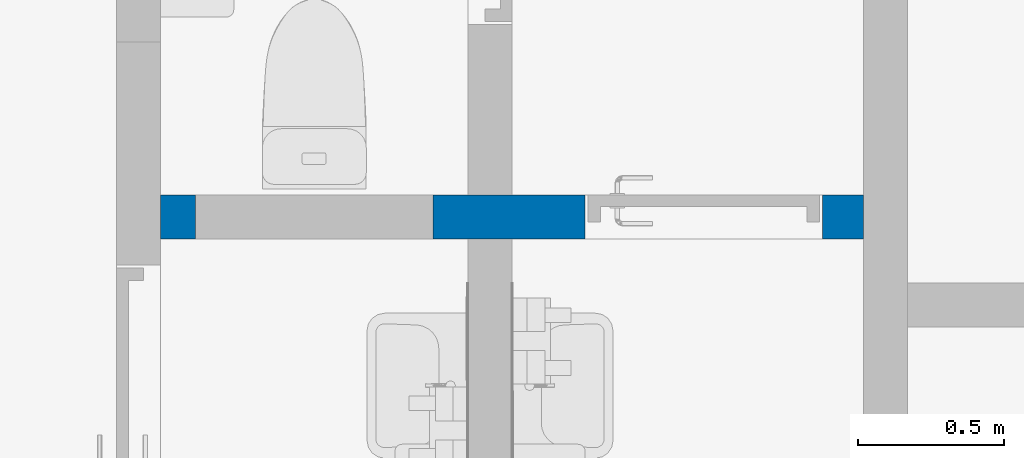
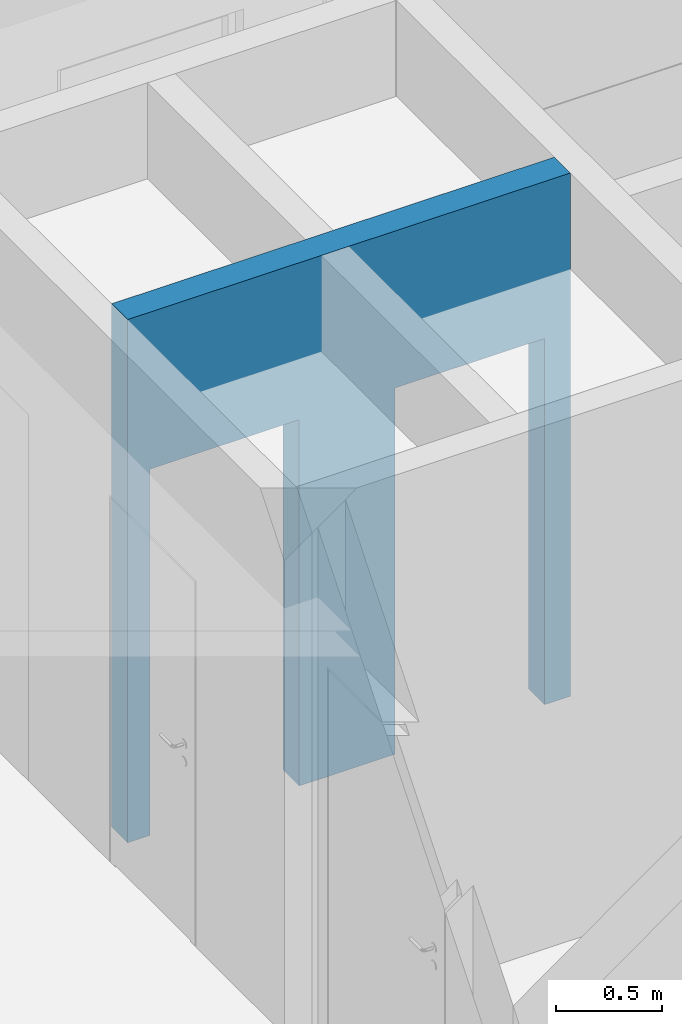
# One storey, part 12 of 58: 1 wall, 2 openings.
"""IFC2X3 building model written with IfcOpenShell, lengths in millimetres."""

from ifc_helpers import new_model, entity, si_unit, converted_unit, derived_unit, direction, frame, frame_2d, origin, origin_2d_with_axis, place, context, subcontext, project, spatial, rectangle, extrude, material, layer, layer_set, layer_usage, type_object, element, save


model = new_model("IFC2X3")

# Units and contexts
model_context = context("Model", 3, precision=0.01, world=origin(), true_north=direction((0.7716245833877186, 0.6360782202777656)))
body_context = subcontext(model_context, "Body", "Model", "MODEL_VIEW")
ifc_project = project(units=[si_unit("LENGTHUNIT", "METRE", prefix="MILLI"), si_unit("AREAUNIT", "SQUARE_METRE"), converted_unit("PLANEANGLEUNIT", "DEGREE", entity("IfcPlaneAngleMeasure", 0.017453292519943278), si_unit("PLANEANGLEUNIT", "RADIAN"), dimensions=[0, 0, 0, 0, 0, 0, 0]), derived_unit("THERMALTRANSMITTANCEUNIT", [(si_unit("MASSUNIT", "GRAM", prefix="KILO"), 1), (si_unit("THERMODYNAMICTEMPERATUREUNIT", "KELVIN"), -1), (si_unit("TIMEUNIT", "SECOND"), -3)])], contexts=[model_context])

# Site, building, storey
site_placement = place(None, origin())
site = spatial("IfcSite", under=ifc_project, at=site_placement, Name="Default", CompositionType="ELEMENT")
building_placement = place(site_placement, origin())
building = spatial("IfcBuilding", under=site, at=building_placement, CompositionType="ELEMENT")
storey_placement = place(building_placement, frame((0.0, 0.0, 31140.0)))
storey = spatial("IfcBuildingStorey", under=building, at=storey_placement, Name="PLAN U1", CompositionType="ELEMENT", Elevation=31140.000000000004)

# Wall, openings
ifc_material = material(Name="Eksist. vegg")
ifc_layer = layer(ifc_material, 150.0)
ifc_layer_set = layer_set([ifc_layer], Name="Basic Wall:240 Eksist. Innervegg 150 mm")
ifc_layer_usage = layer_usage(ifc_layer_set, "AXIS2", "NEGATIVE", 75.0)
wall_type = type_object("IfcWallType", Name="Basic Wall:240 Eksist. Innervegg 150 mm", PredefinedType="STANDARD", material=ifc_layer_set)
wall_placement = place(storey_placement, frame((263442.92444647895, 61047.378594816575, 0.0)))
wall = element("IfcWallStandardCase", 1, at=wall_placement, inside=storey, type_object=wall_type, material=ifc_layer_usage, Name="Basic Wall:240 Eksist. Innervegg 150 mm", ObjectType="Basic Wall:240 Eksist. Innervegg 150 mm", context=body_context, shape_type="SweptSolid", body=[
    extrude(rectangle(XDim=2400.000000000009, YDim=150.00000000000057, at=frame_2d((1200.0000000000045, 1.3713474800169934e-12), x_axis=(-1.0, 0.0))), origin(), (0.0, 0.0, 1.0), 2999.9999999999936),
])
opening_1_placement = place(wall_placement, frame((1450.0, -75.0, 0.0)))
element("IfcOpeningElement", 2, at=opening_1_placement, cuts=wall, Name="Enfløyet:2441 Innvendig 8x21M:1", ObjectType="Opening", context=body_context, shape_type="SweptSolid", body=[
    extrude(rectangle(XDim=2100.0, YDim=810.0, at=frame_2d((1049.9999999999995, 405.0), x_axis=(1.0, 0.0))), frame((0.0, 0.0, 0.0), z_axis=(0.0, 1.0, 0.0), x_axis=(0.0, 0.0, 1.0)), (0.0, 0.0, 1.0), 150.0),
])
opening_2_placement = place(wall_placement, frame((-263442.92444647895, -61047.378594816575, 0.0)))
element("IfcOpeningElement", 3, at=opening_2_placement, cuts=wall, Name="Basic Wall:240 Eksist. Innervegg 150 mm", ObjectType="Opening", context=body_context, shape_type="SweptSolid", body=[
    extrude(rectangle(XDim=2099.999999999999, YDim=809.9999999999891, at=origin_2d_with_axis()), frame((263967.9244464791, 59448.378594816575, 1050.0), z_axis=(0.0, 1.0, 0.0), x_axis=(0.0, 0.0, 1.0)), (0.0, 0.0, 1.0), 3048.0),
])

save(model, "model.ifc")
